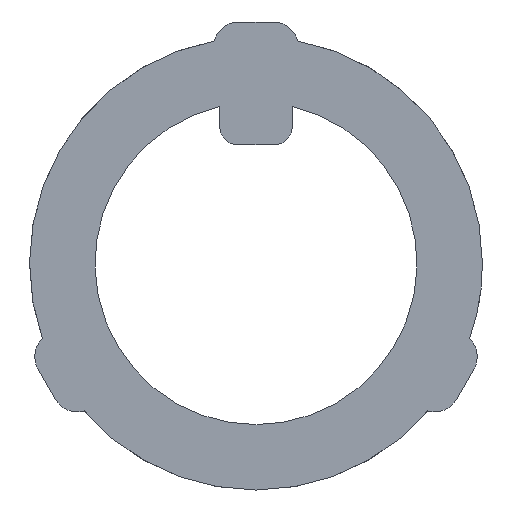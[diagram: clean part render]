
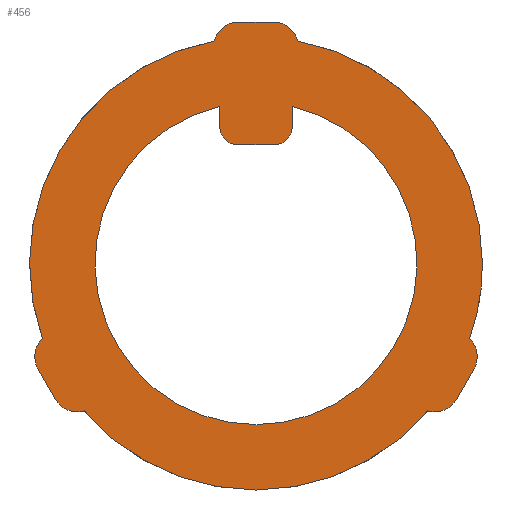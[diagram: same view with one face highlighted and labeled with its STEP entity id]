
A CAD part, front view. The second image highlights one B-rep face of the part: STEP entity #456.
In plain terms, the highlighted planar face has unit normal (0, -1, 0).
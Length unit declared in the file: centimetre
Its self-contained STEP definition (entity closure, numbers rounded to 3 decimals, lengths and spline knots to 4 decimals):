
#105=CIRCLE('',#469,0.2286);
#107=CIRCLE('',#473,0.2286);
#111=CIRCLE('',#479,2.032);
#115=CIRCLE('',#485,0.3175);
#116=CIRCLE('',#487,0.3175);
#117=CIRCLE('',#490,2.8575);
#118=CIRCLE('',#491,0.3175);
#119=CIRCLE('',#492,0.3175);
#120=CIRCLE('',#493,0.3175);
#121=CIRCLE('',#494,0.3175);
#137=VECTOR('',#511,1.);
#142=VECTOR('',#517,1.);
#144=VECTOR('',#526,1.);
#152=VECTOR('',#565,1.);
#153=VECTOR('',#571,1.);
#154=VECTOR('',#576,1.);
#165=LINE('',#621,#137);
#170=LINE('',#636,#142);
#172=LINE('',#644,#144);
#180=LINE('',#680,#152);
#181=LINE('',#687,#153);
#182=LINE('',#694,#154);
#193=VERTEX_POINT('',#619);
#195=VERTEX_POINT('',#622);
#198=VERTEX_POINT('',#631);
#200=VERTEX_POINT('',#635);
#201=VERTEX_POINT('',#639);
#203=VERTEX_POINT('',#645);
#210=VERTEX_POINT('',#669);
#211=VERTEX_POINT('',#671);
#212=VERTEX_POINT('',#675);
#213=VERTEX_POINT('',#677);
#214=VERTEX_POINT('',#683);
#215=VERTEX_POINT('',#684);
#216=VERTEX_POINT('',#686);
#217=VERTEX_POINT('',#688);
#218=VERTEX_POINT('',#690);
#219=VERTEX_POINT('',#691);
#220=VERTEX_POINT('',#693);
#221=VERTEX_POINT('',#695);
#233=EDGE_CURVE('',#193,#195,#165,.T.);
#239=EDGE_CURVE('',#200,#198,#170,.T.);
#240=EDGE_CURVE('',#195,#201,#105,.T.);
#243=EDGE_CURVE('',#201,#203,#172,.T.);
#246=EDGE_CURVE('',#203,#200,#107,.T.);
#250=EDGE_CURVE('',#193,#198,#111,.T.);
#256=EDGE_CURVE('',#211,#210,#115,.T.);
#260=EDGE_CURVE('',#212,#213,#116,.T.);
#261=EDGE_CURVE('',#213,#211,#180,.T.);
#262=EDGE_CURVE('',#212,#214,#117,.T.);
#263=EDGE_CURVE('',#215,#210,#117,.T.);
#264=EDGE_CURVE('',#215,#216,#118,.T.);
#265=EDGE_CURVE('',#216,#217,#181,.T.);
#266=EDGE_CURVE('',#217,#218,#119,.T.);
#267=EDGE_CURVE('',#219,#218,#117,.T.);
#268=EDGE_CURVE('',#219,#220,#120,.T.);
#269=EDGE_CURVE('',#220,#221,#182,.T.);
#270=EDGE_CURVE('',#221,#214,#121,.T.);
#334=ORIENTED_EDGE('',*,*,#250,.T.);
#335=ORIENTED_EDGE('',*,*,#239,.F.);
#336=ORIENTED_EDGE('',*,*,#246,.F.);
#337=ORIENTED_EDGE('',*,*,#243,.F.);
#338=ORIENTED_EDGE('',*,*,#240,.F.);
#339=ORIENTED_EDGE('',*,*,#233,.F.);
#340=ORIENTED_EDGE('',*,*,#262,.F.);
#341=ORIENTED_EDGE('',*,*,#260,.T.);
#342=ORIENTED_EDGE('',*,*,#261,.T.);
#343=ORIENTED_EDGE('',*,*,#256,.T.);
#344=ORIENTED_EDGE('',*,*,#263,.F.);
#345=ORIENTED_EDGE('',*,*,#264,.T.);
#346=ORIENTED_EDGE('',*,*,#265,.T.);
#347=ORIENTED_EDGE('',*,*,#266,.T.);
#348=ORIENTED_EDGE('',*,*,#267,.F.);
#349=ORIENTED_EDGE('',*,*,#268,.T.);
#350=ORIENTED_EDGE('',*,*,#269,.T.);
#351=ORIENTED_EDGE('',*,*,#270,.T.);
#409=EDGE_LOOP('',(#334,#335,#336,#337,#338,#339));
#410=EDGE_LOOP('',(#340,#341,#342,#343,#344,#345,#346,#347,#348,#349,#350,
#351));
#433=FACE_BOUND('',#409,.T.);
#434=FACE_BOUND('',#410,.T.);
#456=ADVANCED_FACE('',(#433,#434),#736,.F.);
#469=AXIS2_PLACEMENT_3D('',#638,#520,#521);
#473=AXIS2_PLACEMENT_3D('',#650,#531,#532);
#479=AXIS2_PLACEMENT_3D('',#657,#542,#543);
#485=AXIS2_PLACEMENT_3D('',#670,#555,#556);
#487=AXIS2_PLACEMENT_3D('',#678,#562,#563);
#489=AXIS2_PLACEMENT_3D('',#681,#566,$);
#490=AXIS2_PLACEMENT_3D('',#682,#567,#568);
#491=AXIS2_PLACEMENT_3D('',#685,#569,#570);
#492=AXIS2_PLACEMENT_3D('',#689,#572,#573);
#493=AXIS2_PLACEMENT_3D('',#692,#574,#575);
#494=AXIS2_PLACEMENT_3D('',#696,#577,#578);
#511=DIRECTION('',(0.,0.,-1.));
#517=DIRECTION('',(0.,0.,1.));
#520=DIRECTION('',(0.,1.,0.));
#521=DIRECTION('',(0.229,0.,0.));
#526=DIRECTION('',(-1.,0.,0.));
#531=DIRECTION('',(0.,1.,0.));
#532=DIRECTION('',(0.229,0.,0.));
#542=DIRECTION('',(0.,1.,0.));
#543=DIRECTION('',(2.032,0.,0.));
#555=DIRECTION('',(0.,-1.,0.));
#556=DIRECTION('',(-0.159,0.,0.275));
#562=DIRECTION('',(0.,-1.,0.));
#563=DIRECTION('',(-0.159,0.,0.275));
#565=DIRECTION('',(0.5,0.,-0.866));
#566=DIRECTION('',(0.,1.,0.));
#567=DIRECTION('',(0.,1.,0.));
#568=DIRECTION('',(2.858,0.,0.));
#569=DIRECTION('',(0.,-1.,0.));
#570=DIRECTION('',(-0.159,0.,-0.275));
#571=DIRECTION('',(0.5,0.,0.866));
#572=DIRECTION('',(0.,-1.,0.));
#573=DIRECTION('',(-0.159,0.,-0.275));
#574=DIRECTION('',(0.,-1.,0.));
#575=DIRECTION('',(0.318,0.,0.));
#576=DIRECTION('',(-1.,0.,0.));
#577=DIRECTION('',(0.,-1.,0.));
#578=DIRECTION('',(0.318,0.,0.));
#619=CARTESIAN_POINT('',(0.4572,0.,1.9799));
#621=CARTESIAN_POINT('',(0.4572,0.,2.5199));
#622=CARTESIAN_POINT('',(0.4572,0.,1.7272));
#631=CARTESIAN_POINT('',(-0.4572,0.,1.9799));
#635=CARTESIAN_POINT('',(-0.4572,0.,1.7272));
#636=CARTESIAN_POINT('',(-0.4572,0.,1.7272));
#638=CARTESIAN_POINT('',(0.2286,0.,1.7272));
#639=CARTESIAN_POINT('',(0.2286,0.,1.4986));
#644=CARTESIAN_POINT('',(0.2286,0.,1.4986));
#645=CARTESIAN_POINT('',(-0.2286,0.,1.4986));
#650=CARTESIAN_POINT('',(-0.2286,0.,1.7272));
#657=CARTESIAN_POINT('',(0.,0.,0.));
#669=CARTESIAN_POINT('',(-2.169,0.,-1.8603));
#670=CARTESIAN_POINT('',(-2.2553,0.,-1.5548));
#671=CARTESIAN_POINT('',(-2.5302,0.,-1.7135));
#675=CARTESIAN_POINT('',(-2.6956,0.,-0.9482));
#677=CARTESIAN_POINT('',(-2.7491,0.,-1.3345));
#678=CARTESIAN_POINT('',(-2.4741,0.,-1.1757));
#680=CARTESIAN_POINT('',(-2.7491,0.,-1.3345));
#681=CARTESIAN_POINT('',(0.,0.,0.));
#682=CARTESIAN_POINT('',(0.,0.,0.));
#683=CARTESIAN_POINT('',(-0.5266,0.,2.8086));
#684=CARTESIAN_POINT('',(2.169,0.,-1.8603));
#685=CARTESIAN_POINT('',(2.2553,0.,-1.5548));
#686=CARTESIAN_POINT('',(2.5302,0.,-1.7135));
#687=CARTESIAN_POINT('',(2.5302,0.,-1.7135));
#688=CARTESIAN_POINT('',(2.7491,0.,-1.3345));
#689=CARTESIAN_POINT('',(2.4741,0.,-1.1757));
#690=CARTESIAN_POINT('',(2.6956,0.,-0.9482));
#691=CARTESIAN_POINT('',(0.5266,0.,2.8086));
#692=CARTESIAN_POINT('',(0.2188,0.,2.7305));
#693=CARTESIAN_POINT('',(0.2188,0.,3.048));
#694=CARTESIAN_POINT('',(0.2188,0.,3.048));
#695=CARTESIAN_POINT('',(-0.2188,0.,3.048));
#696=CARTESIAN_POINT('',(-0.2188,0.,2.7305));
#736=PLANE('',#489);
